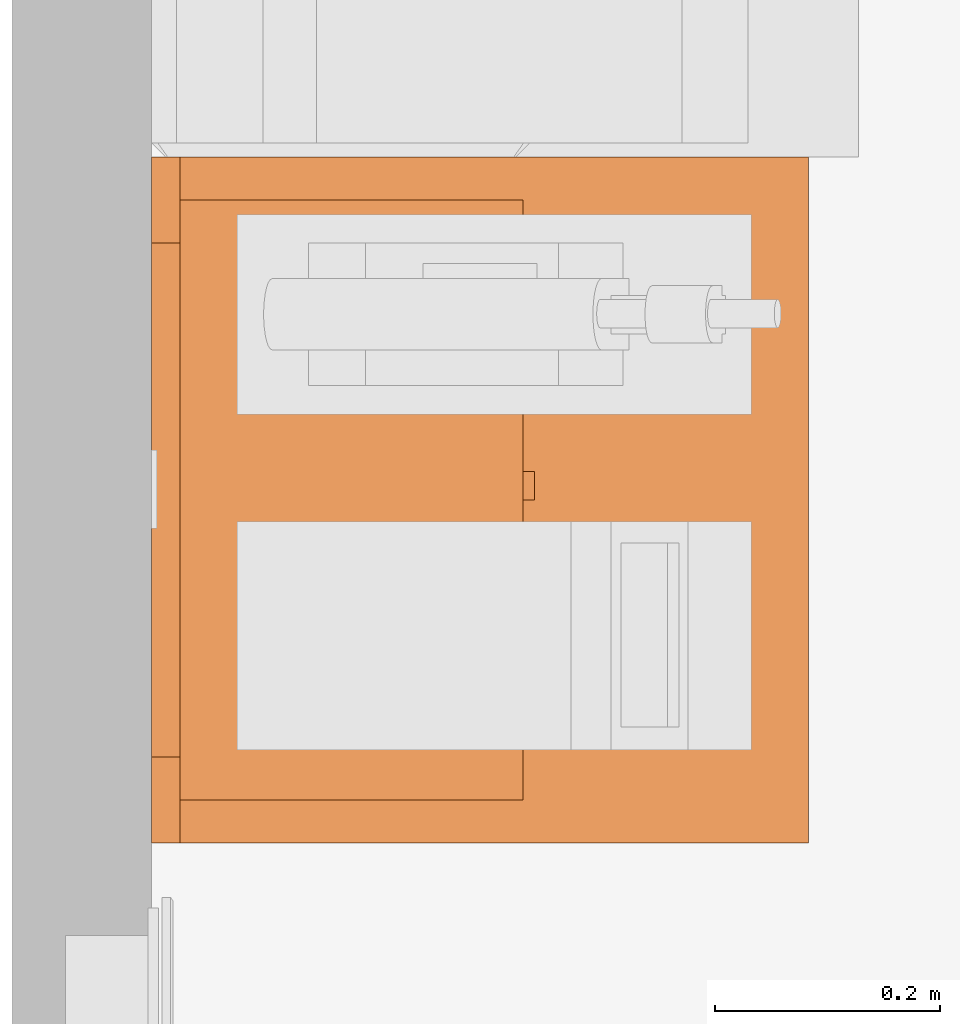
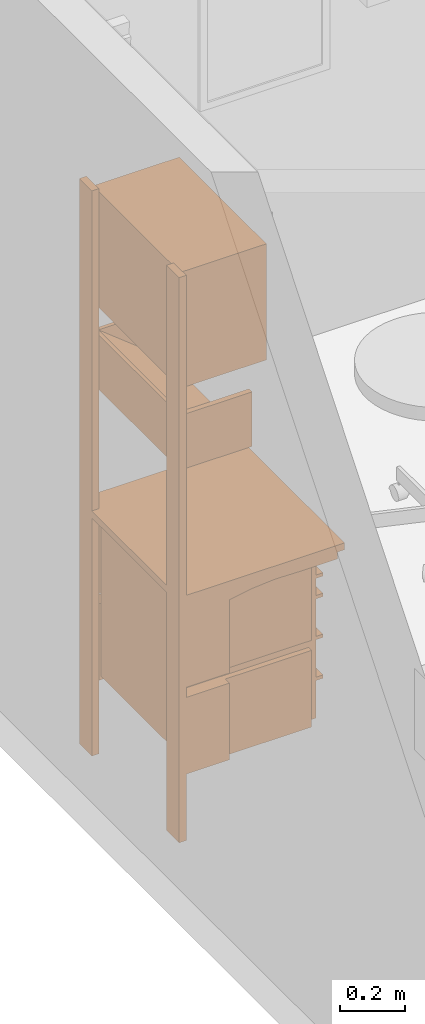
# One storey, part 8 of 12: 1 proxy.
"""IFC2X3 building model written with IfcOpenShell, lengths in feet."""

import ifcopenshell
import ifcopenshell.guid

model = None  # the IFC model being written
_history = None  # IfcOwnerHistory: only IFC2X3 demands one
_inside = {}  # id of a spatial element -> (the spatial element, [elements in it])
_under = {}  # id of a project, library or spatial element -> (it, [spatial elements below it])
_declared = {}  # id of a project -> (the project, [libraries it declares])
_typed = {}  # id of a type object -> (the type object, [elements of that type])
_made_of = {}  # id of a material, layer set ... -> (it, [elements and type objects made of it])


def new_model(schema):
    """Start an empty IFC model of exactly this schema.

    Asked for "IFC4X3", IfcOpenShell would pick the latest addendum, in which some entities
    have other attributes; the version numbers below select the first issue.
    IFC2X3 requires an IfcOwnerHistory on every rooted entity: one is made here for all.
    """
    global model, _history
    if schema == "IFC4X3":
        model = ifcopenshell.file(schema_version=(4, 3, 0, 0))
    else:
        model = ifcopenshell.file(schema=schema)
    _inside.clear()
    _under.clear()
    _declared.clear()
    _typed.clear()
    _made_of.clear()
    _history = None
    if model.schema == "IFC2X3":
        org = make("IfcOrganization", Name="unknown")
        user = make(
            "IfcPersonAndOrganization",
            ThePerson=make("IfcPerson", FamilyName="unknown"),
            TheOrganization=org,
        )
        app = make(
            "IfcApplication",
            ApplicationDeveloper=org,
            Version="unknown",
            ApplicationFullName="unknown",
            ApplicationIdentifier="unknown",
        )
        _history = make(
            "IfcOwnerHistory",
            OwningUser=user,
            OwningApplication=app,
            ChangeAction="ADDED",
            CreationDate=0,
        )
    return model


def make(cls, **values):
    """One entity of the class cls with the attributes given. An attribute that is None is left unset."""
    return model.create_entity(
        cls, **{name: value for name, value in values.items() if value is not None}
    )


def entity(cls, *values):
    """Any entity or typed value of the class cls, its attributes in the order of the schema. None: left unset."""
    e = model.create_entity(cls)
    for i, value in enumerate(values):
        if value is not None:
            e[i] = value
    return e


def rooted(cls, **values):
    """An entity with a GlobalId (a new one), such as an element, a storey or a relation."""
    return make(cls, GlobalId=ifcopenshell.guid.new(), OwnerHistory=_history, **values)


def si_unit(unit_type, name, prefix=None):
    """IfcSIUnit, for example si_unit("LENGTHUNIT", "METRE", prefix="MILLI")."""
    return make("IfcSIUnit", UnitType=unit_type, Prefix=prefix, Name=name)


def converted_unit(unit_type, name, factor, base, dimensions=None, offset=None):
    """IfcConversionBasedUnit, such as the inch: factor (a typed value) times the base unit."""
    return make(
        "IfcConversionBasedUnit"
        if offset is None
        else "IfcConversionBasedUnitWithOffset",
        ConversionOffset=offset,
        Dimensions=None
        if dimensions is None
        else entity("IfcDimensionalExponents", *dimensions),
        UnitType=unit_type,
        Name=name,
        ConversionFactor=make(
            "IfcMeasureWithUnit", ValueComponent=factor, UnitComponent=base
        ),
    )


def derived_unit(unit_type, elements):
    """IfcDerivedUnit: a product of units, each with its exponent."""
    return make(
        "IfcDerivedUnit",
        Elements=[
            make("IfcDerivedUnitElement", Unit=unit, Exponent=power)
            for unit, power in elements
        ],
        UnitType=unit_type,
    )


def assignment(units):
    """IfcUnitAssignment: the units of a project."""
    return None if units is None else make("IfcUnitAssignment", Units=units)


def point(xyz):
    """IfcCartesianPoint."""
    return None if xyz is None else make("IfcCartesianPoint", Coordinates=xyz)


def direction(xyz):
    """IfcDirection."""
    return None if xyz is None else make("IfcDirection", DirectionRatios=xyz)


def frame(location, z_axis=None, x_axis=None):
    """IfcAxis2Placement3D, a coordinate frame: its origin and axes. An axis left out is left unset."""
    return make(
        "IfcAxis2Placement3D",
        Location=point(location),
        Axis=direction(z_axis),
        RefDirection=direction(x_axis),
    )


def origin():
    """The frame at (0, 0, 0) with its axes left unset."""
    return frame((0.0, 0.0, 0.0))


def place(relative_to, where):
    """IfcLocalPlacement: puts the frame where relative to a parent placement (None: the world)."""
    return make(
        "IfcLocalPlacement", PlacementRelTo=relative_to, RelativePlacement=where
    )


def context(
    kind, dimensions, precision=None, world=None, true_north=None, identifier=None
):
    """IfcGeometricRepresentationContext, for example the 3D "Model" context."""
    return make(
        "IfcGeometricRepresentationContext",
        ContextIdentifier=identifier,
        ContextType=kind,
        CoordinateSpaceDimension=dimensions,
        Precision=precision,
        WorldCoordinateSystem=world,
        TrueNorth=true_north,
    )


def subcontext(parent, identifier, kind, view, scale=None):
    """IfcGeometricRepresentationSubContext, for example "Body" below "Model"."""
    return make(
        "IfcGeometricRepresentationSubContext",
        ContextIdentifier=identifier,
        ContextType=kind,
        ParentContext=parent,
        TargetScale=scale,
        TargetView=view,
    )


def project(units=None, contexts=None):
    """IfcProject with its units and contexts."""
    return rooted(
        "IfcProject",
        Name="project",
        RepresentationContexts=contexts,
        UnitsInContext=assignment(units),
    )


def spatial(cls, under=None, at=None, **own):
    """A site, building, storey or space (cls), placed at a placement, below another one or the project."""
    s = rooted(cls, ObjectPlacement=at, **own)
    if under is not None:
        _under.setdefault(under.id(), (under, []))[1].append(s)
    return s


def faces_of(points, faces, orient=None, outer=None):
    """IfcFace entities. A face is a list of loops; a loop is a list of indices into points, from 0.

    orient and outer hold one flag for each loop. By default every Orientation is true, the
    first loop of a face is its IfcFaceOuterBound and the others are IfcFaceBound.
    """
    made = []
    for i, loops in enumerate(faces):
        bounds = []
        for j, loop in enumerate(loops):
            is_outer = j == 0 if outer is None else outer[i][j]
            bounds.append(
                make(
                    "IfcFaceOuterBound" if is_outer else "IfcFaceBound",
                    Bound=make("IfcPolyLoop", Polygon=[points[k] for k in loop]),
                    Orientation=True if orient is None else orient[i][j],
                )
            )
        made.append(make("IfcFace", Bounds=bounds))
    return made


def faceted_brep(points, faces, orient=None, outer=None, voids=None):
    """IfcFacetedBrep: a solid bounded by flat faces; with voids (closed shells), ...WithVoids."""
    shared = [point(p) for p in points]
    hull = make("IfcClosedShell", CfsFaces=faces_of(shared, faces, orient, outer))
    if voids is None:
        return make("IfcFacetedBrep", Outer=hull)
    return make(
        "IfcFacetedBrepWithVoids",
        Outer=hull,
        Voids=[
            make(cls, CfsFaces=faces_of(shared, fs, o, b)) for cls, fs, o, b in voids
        ],
    )


def shape(context_of_items, identifier, shape_type, items):
    """IfcShapeRepresentation: the items that make up one representation, for example the "Body"."""
    return make(
        "IfcShapeRepresentation",
        ContextOfItems=context_of_items,
        RepresentationIdentifier=identifier,
        RepresentationType=shape_type,
        Items=items,
    )


def source(mapping_origin, context_of_items, identifier, shape_type, items):
    """IfcRepresentationMap: a shape defined once, which mapped items show again and again."""
    return make(
        "IfcRepresentationMap",
        MappingOrigin=mapping_origin,
        MappedRepresentation=shape(context_of_items, identifier, shape_type, items),
    )


def transform(
    local_origin,
    x_axis=None,
    y_axis=None,
    z_axis=None,
    scale=None,
    scale2=None,
    scale3=None,
    uniform=True,
):
    """IfcCartesianTransformationOperator3D, or its non-uniform kind. x_axis, y_axis, z_axis: its Axis1, 2, 3."""
    if uniform:
        return make(
            "IfcCartesianTransformationOperator3D",
            Axis1=direction(x_axis),
            Axis2=direction(y_axis),
            LocalOrigin=point(local_origin),
            Scale=scale,
            Axis3=direction(z_axis),
        )
    return make(
        "IfcCartesianTransformationOperator3DnonUniform",
        Axis1=direction(x_axis),
        Axis2=direction(y_axis),
        LocalOrigin=point(local_origin),
        Scale=scale,
        Axis3=direction(z_axis),
        Scale2=scale2,
        Scale3=scale3,
    )


def mapped(mapping_source, mapping_target):
    """IfcMappedItem: shows the shape of a source again, moved by a transform."""
    return make(
        "IfcMappedItem", MappingSource=mapping_source, MappingTarget=mapping_target
    )


def made_of(thing, what):
    """Note that an element or type object is made of a material, layer set ...; save() writes the relation."""
    if what is not None:
        _made_of.setdefault(what.id(), (what, []))[1].append(thing)
    return thing


def type_object(cls, material=None, **own):
    """A type object (cls), such as IfcWallType, which elements share."""
    return made_of(rooted(cls, **own), material)


def type_shapes(of_type, sources):
    """Give a type object the sources (RepresentationMaps) that its elements show as mapped items."""
    of_type.RepresentationMaps = sources


def element(
    cls,
    number,
    at=None,
    inside=None,
    cuts=None,
    type_object=None,
    material=None,
    context=None,
    identifier="Body",
    shape_type=None,
    held_by="IfcProductDefinitionShape",
    body=None,
    shapes=None,
    **own,
):
    """One element of the class cls, such as IfcWall. Its Tag is "e" and its number.

    at: its placement. inside: the storey or other place that contains it. cuts: it is an
    opening in that element (IfcRelVoidsElement). A single representation is given by context,
    identifier, shape_type and body (its items); several are given by shapes. held_by: the class
    of the entity that holds the representations. save() writes the other relations.
    """
    e = rooted(cls, Tag="e%d" % number, ObjectPlacement=at, **own)
    if body is not None:
        shapes = [shape(context, identifier, shape_type, body)]
    if shapes is not None:
        e.Representation = make(held_by, Representations=shapes)
    if inside is not None:
        _inside.setdefault(inside.id(), (inside, []))[1].append(e)
    if cuts is not None:
        rooted(
            "IfcRelVoidsElement", RelatingBuildingElement=cuts, RelatedOpeningElement=e
        )
    if type_object is not None:
        _typed.setdefault(type_object.id(), (type_object, []))[1].append(e)
    return made_of(e, material)


def aggregate(whole, parts):
    """IfcRelAggregates: a whole, such as a stair, and the parts it consists of."""
    return rooted("IfcRelAggregates", RelatingObject=whole, RelatedObjects=parts)


def save(model, path):
    """Write the relations noted so far, then the file.

    IfcRelAggregates (storeys below a building ...), IfcRelContainedInSpatialStructure (elements
    in a storey), IfcRelDefinesByType, IfcRelAssociatesMaterial and IfcRelDeclares: one each for
    every whole, place, type object, material and project.
    """
    for whole, parts in _under.values():
        aggregate(whole, parts)
    for where, things in _inside.values():
        rooted(
            "IfcRelContainedInSpatialStructure",
            RelatedElements=things,
            RelatingStructure=where,
        )
    for kind, things in _typed.values():
        rooted("IfcRelDefinesByType", RelatedObjects=things, RelatingType=kind)
    for what, things in _made_of.values():
        rooted("IfcRelAssociatesMaterial", RelatedObjects=things, RelatingMaterial=what)
    for by, libraries in _declared.values():
        rooted("IfcRelDeclares", RelatingContext=by, RelatedDefinitions=libraries)
    model.write(path)


model = new_model("IFC2X3")

# Units and contexts
model_context = context("Model", 3, precision=0.0001, world=origin(), true_north=direction((6.12303176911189e-17, 1.0)))
body_context = subcontext(model_context, "Body", "Model", "MODEL_VIEW")
ifc_project = project(units=[converted_unit("LENGTHUNIT", "FOOT", entity("IfcRatioMeasure", 0.3048), si_unit("LENGTHUNIT", "METRE"), dimensions=[1, 0, 0, 0, 0, 0, 0]), converted_unit("AREAUNIT", "SQUARE FOOT", entity("IfcRatioMeasure", 0.09290304), si_unit("AREAUNIT", "SQUARE_METRE"), dimensions=[2, 0, 0, 0, 0, 0, 0]), converted_unit("VOLUMEUNIT", "CUBIC FOOT", entity("IfcRatioMeasure", 0.028316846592), si_unit("VOLUMEUNIT", "CUBIC_METRE"), dimensions=[3, 0, 0, 0, 0, 0, 0]), converted_unit("PLANEANGLEUNIT", "DEGREE", entity("IfcRatioMeasure", 0.0174532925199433), si_unit("PLANEANGLEUNIT", "RADIAN"), dimensions=[0, 0, 0, 0, 0, 0, 0]), si_unit("MASSUNIT", "GRAM", prefix="KILO"), derived_unit("MASSDENSITYUNIT", [(si_unit("MASSUNIT", "GRAM", prefix="KILO"), 1), (si_unit("LENGTHUNIT", "METRE"), -3)]), si_unit("TIMEUNIT", "SECOND"), si_unit("FREQUENCYUNIT", "HERTZ"), si_unit("THERMODYNAMICTEMPERATUREUNIT", "DEGREE_CELSIUS"), derived_unit("THERMALTRANSMITTANCEUNIT", [(si_unit("MASSUNIT", "GRAM", prefix="KILO"), 1), (si_unit("THERMODYNAMICTEMPERATUREUNIT", "KELVIN"), -1), (si_unit("TIMEUNIT", "SECOND"), -3)]), derived_unit("VOLUMETRICFLOWRATEUNIT", [(si_unit("LENGTHUNIT", "METRE"), 3), (si_unit("TIMEUNIT", "SECOND"), -1)]), si_unit("ELECTRICCURRENTUNIT", "AMPERE"), si_unit("ELECTRICVOLTAGEUNIT", "VOLT"), si_unit("POWERUNIT", "WATT"), si_unit("FORCEUNIT", "NEWTON"), si_unit("ILLUMINANCEUNIT", "LUX"), si_unit("LUMINOUSFLUXUNIT", "LUMEN"), si_unit("LUMINOUSINTENSITYUNIT", "CANDELA"), derived_unit("USERDEFINED", [(si_unit("MASSUNIT", "GRAM", prefix="KILO"), -1), (si_unit("LENGTHUNIT", "METRE"), -2), (si_unit("TIMEUNIT", "SECOND"), 3), (si_unit("LUMINOUSFLUXUNIT", "LUMEN"), 1)]), derived_unit("LINEARVELOCITYUNIT", [(si_unit("LENGTHUNIT", "METRE"), 1), (si_unit("TIMEUNIT", "SECOND"), -1)]), si_unit("PRESSUREUNIT", "PASCAL"), derived_unit("USERDEFINED", [(si_unit("LENGTHUNIT", "METRE"), -2), (si_unit("MASSUNIT", "GRAM", prefix="KILO"), 1), (si_unit("TIMEUNIT", "SECOND"), -2)])], contexts=[model_context])

# Site, building, storey, space
site_placement = place(None, origin())
site = spatial("IfcSite", under=ifc_project, at=site_placement, Name="Default", CompositionType="ELEMENT")
building_placement = place(site_placement, origin())
building = spatial("IfcBuilding", under=site, at=building_placement, Name="EYE CLINIC:  OPTHALMOLOGY AND OPTOMETRY SERVICES (Ch. 233)", CompositionType="ELEMENT")
storey_placement = place(building_placement, origin())
storey = spatial("IfcBuildingStorey", under=building, at=storey_placement, Name="DATUM", CompositionType="ELEMENT", Elevation=0.0)
space_placement = place(storey_placement, origin())
space = spatial("IfcSpace", under=storey, at=space_placement, Name="(OPPT2)", CompositionType="ELEMENT", InteriorOrExteriorSpace="INTERNAL")

# Proxy
building_element_proxy_type = type_object("IfcBuildingElementProxyType", Name="E0204 - Worksurface, with Overhd Cab & Drwrs, Wall Mtd, 24 W", PredefinedType="NOTDEFINED")
shared_shape = source(origin(), body_context, "Body", "Brep", [
    faceted_brep([(0.125000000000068, -0.916666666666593, 5.12161490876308), (0.125000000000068, -0.0833333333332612, 5.12161490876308), (0.125000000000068, -0.0833333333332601, 4.45494824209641), (0.125000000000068, -0.916666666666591, 4.45494824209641), (1.87500000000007, -0.916666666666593, 5.12161490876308), (1.87500000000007, -0.916666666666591, 4.45494824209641), (1.87500000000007, -0.0833333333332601, 4.45494824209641), (1.87500000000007, -0.0833333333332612, 5.12161490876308), (0.187500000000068, -0.916666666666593, 5.12161490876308), (0.187500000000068, -0.124999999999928, 5.12161490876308), (1.8333333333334, -0.12499999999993, 5.12161490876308), (1.8333333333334, -0.916666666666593, 5.12161490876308), (1.8333333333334, -0.916666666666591, 4.49661490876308), (0.187500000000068, -0.916666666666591, 4.49661490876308)], [[[0, 1, 2, 3]], [[4, 5, 6, 7]], [[0, 8, 9, 10, 11, 4, 7, 1]], [[1, 7, 6, 2]], [[2, 6, 5, 3]], [[3, 5, 4, 11, 12, 13, 8, 0]], [[9, 8, 13]], [[12, 11, 10]], [[13, 12, 10, 9]]]),
    faceted_brep([(2.0, -1.91666666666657, 2.99921907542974), (2.0, -1.91666666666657, 2.9158857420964), (2.0, 0.0, 2.91588574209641), (2.0, 0.0, 2.99921907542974), (0.0, -1.91666666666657, 2.99921907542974), (0.0, 0.0, 2.99921907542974), (0.0, 0.0, 2.91588574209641), (0.0, -1.91666666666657, 2.9158857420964)], [[[0, 1, 2, 3]], [[4, 5, 6, 7]], [[3, 5, 4, 0]], [[2, 6, 5, 3]], [[1, 7, 6, 2]], [[0, 4, 7, 1]]]),
    faceted_brep([(0.0, -0.58333333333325, 1.74999999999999), (0.0, -0.083333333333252, 1.74999999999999), (0.0, -0.0833333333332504, 0.812499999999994), (0.0, -0.583333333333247, 0.812499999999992), (0.0833333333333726, -0.58333333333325, 1.74999999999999), (0.0833333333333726, -0.583333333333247, 0.812499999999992), (0.0833333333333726, -0.0833333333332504, 0.812499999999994), (0.0833333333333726, -0.083333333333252, 1.74999999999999)], [[[0, 1, 2, 3]], [[4, 5, 6, 7]], [[0, 4, 7, 1]], [[1, 7, 6, 2]], [[2, 6, 5, 3]], [[3, 5, 4, 0]]]),
    faceted_brep([(0.0, -1.83333333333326, 2.9158857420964), (0.0, -0.0833333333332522, 2.9158857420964), (0.0, -0.0833333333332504, 1.87421907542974), (0.0, -0.58333333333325, 1.87421907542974), (0.0, -0.583333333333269, 2.77005240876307), (0.0, -0.847418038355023, 2.81735719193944), (0.0, -1.11489062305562, 2.83825911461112), (0.0, -1.38311796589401, 2.83255240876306), (0.0, -1.83333333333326, 2.83255240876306), (0.0833333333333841, -0.583333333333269, 2.77005240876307), (0.0833333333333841, -0.58333333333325, 1.87421907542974), (0.0833333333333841, -0.0833333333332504, 1.87421907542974), (0.0833333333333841, -0.0833333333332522, 2.9158857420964), (0.0833333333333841, -1.83333333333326, 2.9158857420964), (0.0833333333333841, -1.83333333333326, 2.83255240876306), (0.0833333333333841, -1.38311796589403, 2.83255240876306), (0.0833333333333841, -1.11489062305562, 2.83825911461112), (0.0833333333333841, -0.847418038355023, 2.81735719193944)], [[[0, 1, 2, 3, 4, 5, 6, 7, 8]], [[9, 10, 11, 12, 13, 14, 15, 16, 17]], [[13, 0, 8, 14]], [[12, 1, 0, 13]], [[11, 2, 1, 12]], [[10, 3, 2, 11]], [[9, 4, 3, 10]], [[7, 6, 16, 15]], [[6, 5, 17, 16]], [[5, 4, 9, 17]], [[14, 8, 7, 15]]]),
    faceted_brep([(0.145833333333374, -1.74999999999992, 1.35416666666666), (0.145833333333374, -1.66666666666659, 1.35416666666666), (0.145833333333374, -1.66666666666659, 1.31249999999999), (0.145833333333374, -1.74999999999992, 1.31249999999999), (1.85416666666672, -1.74999999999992, 1.35416666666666), (1.85416666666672, -1.74999999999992, 1.31249999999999), (1.85416666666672, -1.66666666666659, 1.31249999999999), (1.85416666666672, -1.66666666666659, 1.35416666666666)], [[[0, 1, 2, 3]], [[4, 5, 6, 7]], [[0, 4, 7, 1]], [[1, 7, 6, 2]], [[2, 6, 5, 3]], [[3, 5, 4, 0]]]),
    faceted_brep([(0.145833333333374, -1.74999999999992, 1.85416666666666), (0.145833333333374, -1.66666666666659, 1.85416666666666), (0.145833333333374, -1.66666666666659, 1.81249999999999), (0.145833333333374, -1.74999999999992, 1.81249999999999), (1.85416666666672, -1.74999999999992, 1.85416666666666), (1.85416666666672, -1.74999999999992, 1.81249999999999), (1.85416666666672, -1.66666666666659, 1.81249999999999), (1.85416666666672, -1.66666666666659, 1.85416666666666)], [[[0, 1, 2, 3]], [[4, 5, 6, 7]], [[0, 4, 7, 1]], [[1, 7, 6, 2]], [[2, 6, 5, 3]], [[3, 5, 4, 0]]]),
    faceted_brep([(0.145833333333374, -1.74999999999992, 2.35416666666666), (0.145833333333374, -1.66666666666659, 2.35416666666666), (0.145833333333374, -1.66666666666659, 2.31249999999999), (0.145833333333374, -1.74999999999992, 2.31249999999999), (1.85416666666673, -1.74999999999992, 2.35416666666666), (1.85416666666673, -1.74999999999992, 2.31249999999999), (1.85416666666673, -1.66666666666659, 2.31249999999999), (1.85416666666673, -1.66666666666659, 2.35416666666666)], [[[0, 1, 2, 3]], [[4, 5, 6, 7]], [[0, 4, 7, 1]], [[1, 7, 6, 2]], [[2, 6, 5, 3]], [[3, 5, 4, 0]]]),
    faceted_brep([(0.145833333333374, -1.74999999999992, 2.60416666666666), (0.145833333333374, -1.66666666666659, 2.60416666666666), (0.145833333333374, -1.66666666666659, 2.56249999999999), (0.145833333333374, -1.74999999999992, 2.56249999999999), (1.85416666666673, -1.74999999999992, 2.60416666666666), (1.85416666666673, -1.74999999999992, 2.56249999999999), (1.85416666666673, -1.66666666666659, 2.56249999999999), (1.85416666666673, -1.66666666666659, 2.60416666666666)], [[[0, 1, 2, 3]], [[4, 5, 6, 7]], [[0, 4, 7, 1]], [[1, 7, 6, 2]], [[2, 6, 5, 3]], [[3, 5, 4, 0]]]),
    faceted_brep([(0.145833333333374, -1.74999999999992, 2.85416666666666), (0.145833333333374, -1.66666666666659, 2.85416666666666), (0.145833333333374, -1.66666666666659, 2.81249999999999), (0.145833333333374, -1.74999999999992, 2.81249999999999), (1.85416666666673, -1.74999999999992, 2.85416666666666), (1.85416666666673, -1.74999999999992, 2.81249999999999), (1.85416666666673, -1.66666666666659, 2.81249999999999), (1.85416666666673, -1.66666666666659, 2.85416666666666)], [[[0, 1, 2, 3]], [[4, 5, 6, 7]], [[0, 4, 7, 1]], [[1, 7, 6, 2]], [[2, 6, 5, 3]], [[3, 5, 4, 0]]]),
    faceted_brep([(0.145833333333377, -0.166666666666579, 2.85416666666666), (0.145833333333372, -1.66666666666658, 2.85416666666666), (1.85416666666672, -1.66666666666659, 2.85416666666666), (1.85416666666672, -0.196309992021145, 2.85416666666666), (1.85416666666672, -0.166666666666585, 2.85416666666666), (0.145833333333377, -0.16666666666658, 0.854166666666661), (1.85416666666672, -0.166666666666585, 0.854166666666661), (1.85416666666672, -0.196309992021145, 0.854166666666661), (1.85416666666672, -1.66666666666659, 0.854166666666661), (0.145833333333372, -1.66666666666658, 0.854166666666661)], [[[0, 1, 2, 3, 4]], [[5, 6, 7, 8, 9]], [[0, 5, 9, 1]], [[1, 9, 8, 2]], [[2, 8, 7, 3]], [[3, 7, 6, 4]], [[4, 6, 5, 0]]]),
    faceted_brep([(0.0833333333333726, -1.58333333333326, 1.87421907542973), (0.0833333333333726, -1.58333333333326, 2.87421907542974), (0.0833333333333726, -0.0833333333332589, 2.87421907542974), (0.0833333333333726, -0.0833333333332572, 1.87421907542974), (0.145833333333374, -1.58333333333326, 1.87421907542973), (0.145833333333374, -0.0833333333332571, 1.87421907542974), (0.145833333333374, -0.0833333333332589, 2.87421907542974), (0.145833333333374, -1.58333333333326, 2.87421907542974)], [[[0, 1, 2, 3]], [[4, 5, 6, 7]], [[0, 4, 7, 1]], [[1, 7, 6, 2]], [[2, 6, 5, 3]], [[3, 5, 4, 0]]]),
    faceted_brep([(0.0833333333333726, -1.58333333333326, 0.812499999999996), (0.0833333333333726, -1.58333333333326, 1.74999999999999), (0.0833333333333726, -0.0833333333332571, 1.74999999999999), (0.0833333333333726, -0.0833333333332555, 0.812500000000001), (0.145833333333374, -1.58333333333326, 0.812499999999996), (0.145833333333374, -0.0833333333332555, 0.812500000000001), (0.145833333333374, -0.0833333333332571, 1.74999999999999), (0.145833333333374, -1.58333333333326, 1.74999999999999)], [[[0, 1, 2, 3]], [[4, 5, 6, 7]], [[0, 4, 7, 1]], [[1, 7, 6, 2]], [[2, 6, 5, 3]], [[3, 5, 4, 0]]]),
    faceted_brep([(1.85416666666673, -1.58333333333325, 1.87421907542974), (1.85416666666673, -1.58333333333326, 2.87421907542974), (1.85416666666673, -0.083333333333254, 2.87421907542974), (1.85416666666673, -0.0833333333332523, 1.87421907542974), (1.91666666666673, -1.58333333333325, 1.87421907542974), (1.91666666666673, -0.0833333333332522, 1.87421907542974), (1.91666666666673, -0.083333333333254, 2.87421907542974), (1.91666666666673, -1.58333333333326, 2.87421907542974)], [[[0, 1, 2, 3]], [[4, 5, 6, 7]], [[0, 4, 7, 1]], [[1, 7, 6, 2]], [[2, 6, 5, 3]], [[3, 5, 4, 0]]]),
    faceted_brep([(1.85416666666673, -1.58333333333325, 0.812499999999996), (1.85416666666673, -1.58333333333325, 1.74999999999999), (1.85416666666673, -0.0833333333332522, 1.74999999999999), (1.85416666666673, -0.0833333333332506, 0.812500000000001), (1.91666666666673, -1.58333333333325, 0.812499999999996), (1.91666666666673, -0.0833333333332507, 0.812500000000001), (1.91666666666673, -0.0833333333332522, 1.74999999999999), (1.91666666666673, -1.58333333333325, 1.74999999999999)], [[[0, 1, 2, 3]], [[4, 5, 6, 7]], [[0, 4, 7, 1]], [[1, 7, 6, 2]], [[2, 6, 5, 3]], [[3, 5, 4, 0]]]),
    faceted_brep([(1.91666666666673, -0.583333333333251, 1.74999999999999), (1.91666666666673, -0.0833333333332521, 1.74999999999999), (1.91666666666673, -0.0833333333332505, 0.812500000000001), (1.91666666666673, -0.583333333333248, 0.812499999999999), (2.0, -0.583333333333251, 1.74999999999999), (2.0, -0.583333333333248, 0.812499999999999), (2.0, -0.0833333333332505, 0.812500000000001), (2.0, -0.0833333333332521, 1.74999999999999)], [[[0, 1, 2, 3]], [[4, 5, 6, 7]], [[0, 4, 7, 1]], [[1, 7, 6, 2]], [[2, 6, 5, 3]], [[3, 5, 4, 0]]]),
    faceted_brep([(1.91666666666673, -1.83333333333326, 2.9158857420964), (1.91666666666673, -0.0833333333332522, 2.91588574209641), (1.91666666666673, -0.0833333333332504, 1.87421907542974), (1.91666666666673, -0.58333333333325, 1.87421907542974), (1.91666666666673, -0.583333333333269, 2.77005240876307), (1.91666666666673, -0.847418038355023, 2.81735719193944), (1.91666666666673, -1.11489062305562, 2.83825911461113), (1.91666666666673, -1.38311796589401, 2.83255240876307), (1.91666666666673, -1.83333333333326, 2.83255240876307), (2.0, -0.583333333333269, 2.77005240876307), (2.0, -0.58333333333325, 1.87421907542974), (2.0, -0.0833333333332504, 1.87421907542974), (2.0, -0.0833333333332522, 2.91588574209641), (2.0, -1.83333333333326, 2.9158857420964), (2.0, -1.83333333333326, 2.83255240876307), (2.0, -1.38311796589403, 2.83255240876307), (2.0, -1.11489062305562, 2.83825911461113), (2.0, -0.847418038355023, 2.81735719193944)], [[[0, 1, 2, 3, 4, 5, 6, 7, 8]], [[9, 10, 11, 12, 13, 14, 15, 16, 17]], [[13, 0, 8, 14]], [[12, 1, 0, 13]], [[11, 2, 1, 12]], [[10, 3, 2, 11]], [[9, 4, 3, 10]], [[7, 6, 16, 15]], [[6, 5, 17, 16]], [[5, 4, 9, 17]], [[14, 8, 7, 15]]]),
    faceted_brep([(1.07102961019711, -1.08333333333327, 5.50881879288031), (1.06240016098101, -1.08333333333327, 5.50219718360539), (1.05235095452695, -1.08333333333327, 5.49803466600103), (1.04156682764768, -1.08333333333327, 5.49661490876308), (1.0307827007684, -1.08333333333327, 5.49803466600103), (1.02073349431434, -1.08333333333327, 5.50219718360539), (1.01210404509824, -1.08333333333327, 5.50881879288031), (1.00548243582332, -1.08333333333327, 5.51744824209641), (1.00131991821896, -1.08333333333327, 5.52749744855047), (0.999900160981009, -1.08333333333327, 5.53828157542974), (1.00131991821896, -1.08333333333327, 5.54906570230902), (1.00548243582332, -1.08333333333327, 5.55911490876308), (1.01210404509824, -1.08333333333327, 5.56774435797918), (1.02073349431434, -1.08333333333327, 5.5743659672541), (1.0307827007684, -1.08333333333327, 5.57852848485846), (1.04156682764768, -1.08333333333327, 5.57994824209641), (1.05235095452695, -1.08333333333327, 5.57852848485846), (1.06240016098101, -1.08333333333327, 5.5743659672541), (1.07102961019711, -1.08333333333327, 5.56774435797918), (1.07765121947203, -1.08333333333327, 5.55911490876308), (1.08181373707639, -1.08333333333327, 5.54906570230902), (1.08323349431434, -1.08333333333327, 5.53828157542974), (1.08181373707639, -1.08333333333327, 5.52749744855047), (1.07765121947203, -1.08333333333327, 5.51744824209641), (1.07102961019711, -1.11693738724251, 5.56774435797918), (1.06240016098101, -1.11693738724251, 5.5743659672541), (1.05235095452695, -1.11693738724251, 5.57852848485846), (1.04156682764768, -1.11693738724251, 5.57994824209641), (1.0307827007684, -1.11693738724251, 5.57852848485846), (1.02073349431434, -1.11693738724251, 5.5743659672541), (1.01210404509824, -1.11693738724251, 5.56774435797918), (1.00548243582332, -1.11693738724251, 5.55911490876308), (1.00131991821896, -1.11693738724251, 5.54906570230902), (0.999900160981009, -1.11693738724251, 5.53828157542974), (1.00131991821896, -1.11693738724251, 5.52749744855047), (1.00548243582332, -1.11693738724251, 5.51744824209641), (1.01210404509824, -1.11693738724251, 5.50881879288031), (1.02073349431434, -1.11693738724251, 5.50219718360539), (1.0307827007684, -1.11693738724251, 5.49803466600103), (1.04156682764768, -1.11693738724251, 5.49661490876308), (1.05235095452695, -1.11693738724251, 5.49803466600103), (1.06240016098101, -1.11693738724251, 5.50219718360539), (1.07102961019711, -1.11693738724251, 5.50881879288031), (1.07765121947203, -1.11693738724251, 5.51744824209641), (1.08181373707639, -1.11693738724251, 5.52749744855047), (1.08323349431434, -1.11693738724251, 5.53828157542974), (1.08181373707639, -1.11693738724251, 5.54906570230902), (1.07765121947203, -1.11693738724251, 5.55911490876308)], [[[0, 1, 2, 3, 4, 5, 6, 7, 8, 9, 10, 11, 12, 13, 14, 15, 16, 17, 18, 19, 20, 21, 22, 23]], [[24, 25, 26, 27, 28, 29, 30, 31, 32, 33, 34, 35, 36, 37, 38, 39, 40, 41, 42, 43, 44, 45, 46, 47]], [[33, 9, 8, 34]], [[34, 8, 7, 35]], [[37, 36, 6, 5]], [[6, 36, 35, 7]], [[38, 37, 5, 4]], [[38, 4, 3, 39]], [[39, 3, 2, 40]], [[40, 2, 1, 41]], [[43, 42, 0, 23]], [[0, 42, 41, 1]], [[44, 43, 23, 22]], [[44, 22, 21, 45]], [[45, 21, 20, 46]], [[46, 20, 19, 47]], [[25, 24, 18, 17]], [[18, 24, 47, 19]], [[26, 25, 17, 16]], [[26, 16, 15, 27]], [[27, 15, 14, 28]], [[28, 14, 13, 29]], [[31, 30, 12, 11]], [[12, 30, 29, 13]], [[32, 31, 11, 10]], [[32, 10, 9, 33]]]),
    faceted_brep([(2.0, 0.0, 6.91666666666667), (1.75000000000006, 0.0, 6.91666666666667), (1.75000000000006, -0.0833333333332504, 6.91666666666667), (2.0, -0.0833333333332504, 6.91666666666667), (2.0, 0.0, 0.0), (2.0, -0.0833333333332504, 0.0), (1.75000000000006, -0.0833333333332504, 0.0), (1.75000000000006, 0.0, 0.0)], [[[0, 1, 2, 3]], [[4, 5, 6, 7]], [[3, 5, 4, 0]], [[2, 6, 5, 3]], [[1, 7, 6, 2]], [[0, 4, 7, 1]]]),
    faceted_brep([(0.250000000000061, 0.0, 6.91666666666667), (0.0, 0.0, 6.91666666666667), (0.0, -0.0833333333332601, 6.91666666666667), (0.250000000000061, -0.0833333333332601, 6.91666666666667), (0.250000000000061, 0.0, 0.0), (0.250000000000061, -0.0833333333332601, 0.0), (0.0, -0.0833333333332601, 0.0), (0.0, 0.0, 0.0)], [[[0, 1, 2, 3]], [[4, 5, 6, 7]], [[3, 5, 4, 0]], [[2, 6, 5, 3]], [[1, 7, 6, 2]], [[0, 4, 7, 1]]]),
    faceted_brep([(1.87500000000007, -0.0833333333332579, 6.87499999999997), (0.125000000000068, -0.083333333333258, 6.87499999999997), (0.12500000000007, -1.08333333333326, 6.87499999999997), (1.87500000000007, -1.08333333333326, 6.87499999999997), (1.87500000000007, -0.0833333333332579, 5.45494824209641), (1.87500000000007, -1.08333333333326, 5.45494824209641), (0.12500000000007, -1.08333333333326, 5.45494824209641), (0.125000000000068, -0.083333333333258, 5.45494824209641)], [[[0, 1, 2, 3]], [[4, 5, 6, 7]], [[3, 5, 4, 0]], [[2, 6, 5, 3]], [[1, 7, 6, 2]], [[0, 4, 7, 1]]]),
])
type_shapes(building_element_proxy_type, [shared_shape])
proxy_placement = place(space_placement, frame((153.639769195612, 27.807625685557, 0.0), z_axis=(0.0, 0.0, 1.0), x_axis=(0.0, 1.0, 0.0)))
element("IfcBuildingElementProxy", 1, at=proxy_placement, inside=space, type_object=building_element_proxy_type, Name="E0204 - Worksurface, with Overhd Cab & Drwrs, Wall Mtd, 24 W:E0204 - Worksurface, with Overhd Cab & Drwrs, Wall Mtd, 24 W", ObjectType="E0204 - Worksurface, with Overhd Cab & Drwrs, Wall Mtd, 24 W", context=body_context, shape_type="MappedRepresentation", body=[
    mapped(shared_shape, transform((0.0, 0.0, 0.0), scale=1.0)),
])

save(model, "model.ifc")
